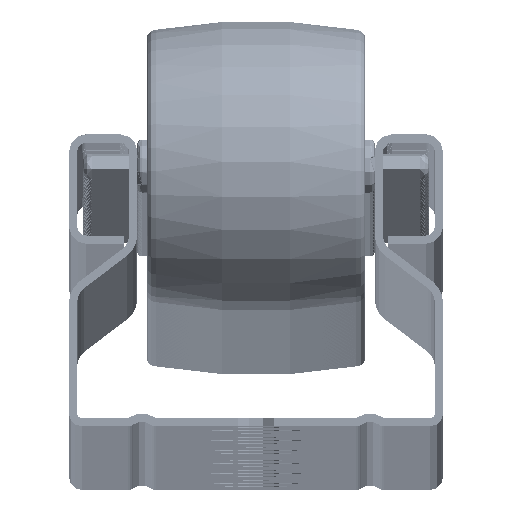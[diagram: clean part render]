
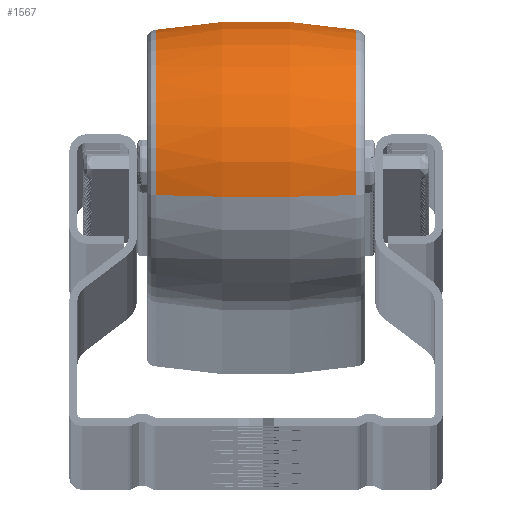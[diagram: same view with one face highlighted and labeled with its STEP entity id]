
A CAD part, top view. The second image highlights one B-rep face of the part: STEP entity #1567.
In plain terms, the highlighted toroidal (fillet/blend) face has major radius 43.983 mm and minor radius 60 mm.
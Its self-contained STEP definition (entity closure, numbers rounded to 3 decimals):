
#928 = CARTESIAN_POINT ( 'NONE',  ( -43.983, 0., 12. ) ) ;
#1567 = ADVANCED_FACE ( 'NONE', ( #87074 ), #69989, .T. ) ;
#10157 = ORIENTED_EDGE ( 'NONE', *, *, #56058, .T. ) ;
#14851 = DIRECTION ( 'NONE',  ( 0., 0., -1. ) ) ;
#15516 = AXIS2_PLACEMENT_3D ( 'NONE', #81364, #62678, #73946 ) ;
#17623 = ORIENTED_EDGE ( 'NONE', *, *, #102482, .F. ) ;
#20554 = DIRECTION ( 'NONE',  ( 0., 1., 0. ) ) ;
#22413 = AXIS2_PLACEMENT_3D ( 'NONE', #85729, #26139, #96167 ) ;
#26139 = DIRECTION ( 'NONE',  ( 0., 0., -1. ) ) ;
#26312 = DIRECTION ( 'NONE',  ( 1., 0., 0. ) ) ;
#26817 = EDGE_CURVE ( 'NONE', #106248, #33306, #56417, .T. ) ;
#33306 = VERTEX_POINT ( 'NONE', #68362 ) ;
#33892 = AXIS2_PLACEMENT_3D ( 'NONE', #125390, #115781, #14851 ) ;
#38885 = EDGE_LOOP ( 'NONE', ( #17623, #128965, #10157, #81383 ) ) ;
#49469 = AXIS2_PLACEMENT_3D ( 'NONE', #928, #20554, #80518 ) ;
#51566 = VERTEX_POINT ( 'NONE', #62883 ) ;
#55152 = VERTEX_POINT ( 'NONE', #70758 ) ;
#55916 = CARTESIAN_POINT ( 'NONE',  ( 0., 0., 1. ) ) ;
#56058 = EDGE_CURVE ( 'NONE', #55152, #106248, #68553, .T. ) ;
#56417 = CIRCLE ( 'NONE', #93399, 15. ) ;
#62678 = DIRECTION ( 'NONE',  ( 0., 0., -1. ) ) ;
#62883 = CARTESIAN_POINT ( 'NONE',  ( 15., 0., 23. ) ) ;
#63819 = CIRCLE ( 'NONE', #49469, 60. ) ;
#65909 = DIRECTION ( 'NONE',  ( 0., 0., 1. ) ) ;
#68362 = CARTESIAN_POINT ( 'NONE',  ( 15., 0., 1. ) ) ;
#68553 = CIRCLE ( 'NONE', #33892, 60. ) ;
#69989 = TOROIDAL_SURFACE ( 'NONE', #15516, -43.983, 60. ) ;
#70758 = CARTESIAN_POINT ( 'NONE',  ( -15., 0., 23. ) ) ;
#73946 = DIRECTION ( 'NONE',  ( -1., 0., 0. ) ) ;
#80518 = DIRECTION ( 'NONE',  ( -1., 0., 0. ) ) ;
#81364 = CARTESIAN_POINT ( 'NONE',  ( 0., 0., 12. ) ) ;
#81383 = ORIENTED_EDGE ( 'NONE', *, *, #26817, .T. ) ;
#85729 = CARTESIAN_POINT ( 'NONE',  ( 0., 0., 23. ) ) ;
#87074 = FACE_OUTER_BOUND ( 'NONE', #38885, .T. ) ;
#93399 = AXIS2_PLACEMENT_3D ( 'NONE', #55916, #65909, #26312 ) ;
#96167 = DIRECTION ( 'NONE',  ( 1., 0., 0. ) ) ;
#98202 = EDGE_CURVE ( 'NONE', #51566, #55152, #125799, .T. ) ;
#102482 = EDGE_CURVE ( 'NONE', #51566, #33306, #63819, .T. ) ;
#106248 = VERTEX_POINT ( 'NONE', #118998 ) ;
#115781 = DIRECTION ( 'NONE',  ( 0., -1., 0. ) ) ;
#118998 = CARTESIAN_POINT ( 'NONE',  ( -15., 0., 1. ) ) ;
#125390 = CARTESIAN_POINT ( 'NONE',  ( 43.983, 0., 12. ) ) ;
#125799 = CIRCLE ( 'NONE', #22413, 15. ) ;
#128965 = ORIENTED_EDGE ( 'NONE', *, *, #98202, .T. ) ;
